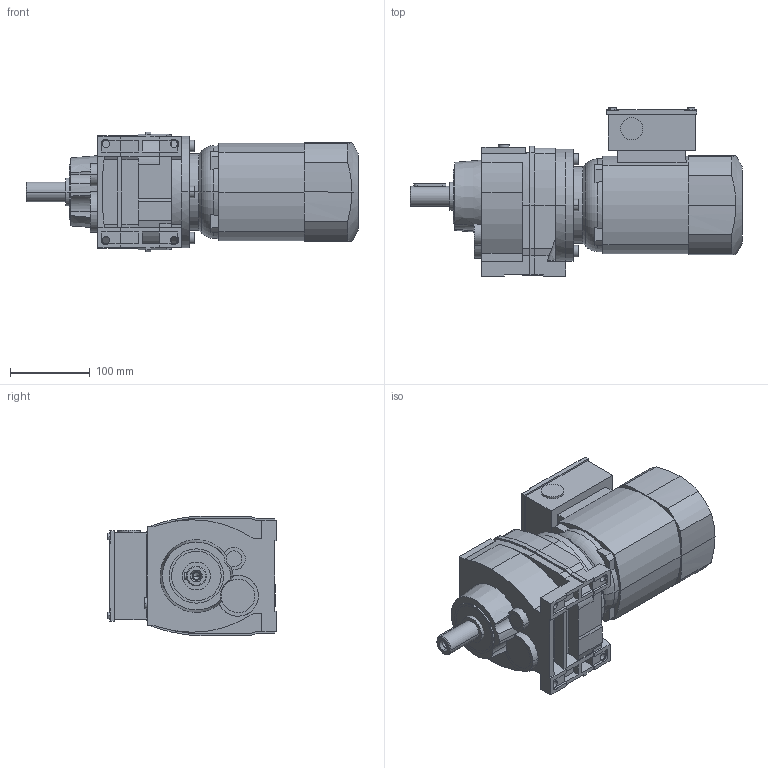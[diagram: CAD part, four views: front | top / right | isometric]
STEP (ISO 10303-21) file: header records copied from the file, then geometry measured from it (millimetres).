
FILE_DESCRIPTION(('STEP AP214'),'1');
FILE_NAME('STEP-File.stp','2018-01-01T00:00:00',(' '),('KEB'),' ','KEB-DRIVE',' ');
FILE_SCHEMA(('AUTOMOTIVE_DESIGN { 1 0 10303 214 1 1 1 1 }'));
Length unit declared in the file: millimetre
Products named in the file (8): g2a; w2_we_25x50; ck2; dm71_kkn; kk08; PLUG_M25; ndm71; G23A DM71K4§CAD13
Assembly tree (7 placements, depth 2):
  G23A DM71K4§CAD13
    g2a
    w2_we_25x50
    ck2
    dm71_kkn
    kk08
    PLUG_M25
    ndm71
Bounding box: 415.5 x 211 x 150 mm (x, y, z)
Volume: 5803900.1 mm3; surface area: 375736.5 mm2
Topology: 7 solids, 7 shells, 444 faces, 1251 edges, 915 vertices
Faces by surface type: plane 285, cylinder 101, cone 54, torus 4
Entity records: 16355 total; most frequent: CARTESIAN_POINT 5246, ORIENTED_EDGE 2498, DIRECTION 1809, EDGE_CURVE 1249, VERTEX_POINT 915, VECTOR 867, LINE 867, EDGE_LOOP 548
